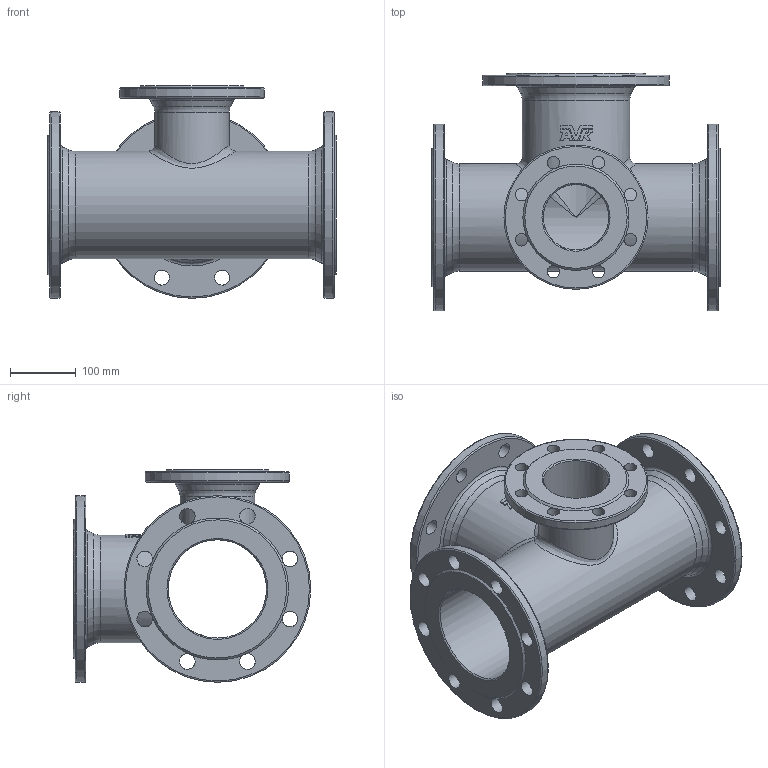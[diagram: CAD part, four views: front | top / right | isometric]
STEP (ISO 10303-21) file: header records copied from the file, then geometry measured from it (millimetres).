
FILE_DESCRIPTION (( 'STEP AP203' ), '1' );
FILE_NAME ('O_712_1110_DN150_AA0.step', '2017-10-13T07:06:34', ( 'Windows User' ), ( 'AVK' ), 'SwSTEP 2.0', 'SolidWorks 2012', '' );
FILE_SCHEMA (( 'CONFIG_CONTROL_DESIGN' ));
Length unit declared in the file: millimetre
Products named in the file (1): O_712_1110_DN150_AA0
Bounding box: 440 x 362.5 x 324.5 mm (x, y, z)
Volume: 4697148.9 mm3; surface area: 939307.1 mm2
Topology: 1 solids, 1 shells, 180 faces, 550 edges, 346 vertices
Faces by surface type: cylinder 85, plane 55, torus 16, cone 12, bspline 8, sphere 4
Full cylindrical faces by diameter (mm): 19 x8, 23 x8, 24 x16, 100 x1, 114 x1, 150 x2, 164 x2, 220 x1, 285 x3
Entity records: 7978 total; most frequent: CARTESIAN_POINT 3718, ORIENTED_EDGE 844, DIRECTION 828, EDGE_CURVE 422, AXIS2_PLACEMENT_3D 373, EDGE_LOOP 300, VERTEX_POINT 294, FACE_OUTER_BOUND 238
